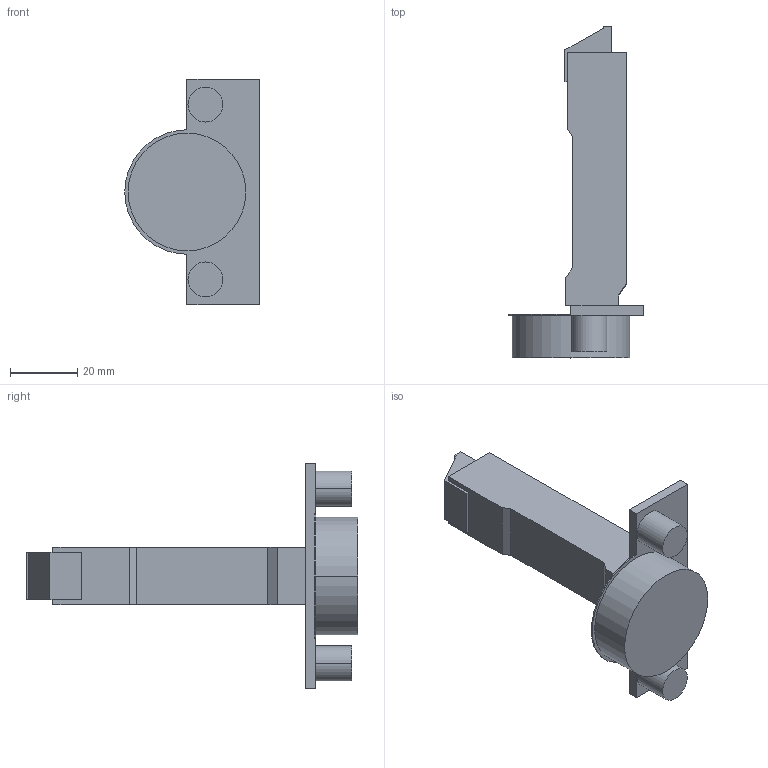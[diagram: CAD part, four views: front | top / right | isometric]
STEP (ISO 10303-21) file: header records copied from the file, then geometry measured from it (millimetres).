
FILE_DESCRIPTION (( 'STEP AP214' ), '1' );
FILE_NAME ('Scharnier TS Click-on 110° H_BB, K03_Dübel.step', '2018-09-12T09:10:23', ( '' ), ( '' ), 'SwSTEP 2.0', 'SolidWorks 2017', '' );
FILE_SCHEMA (( 'AUTOMOTIVE_DESIGN' ));
Length unit declared in the file: millimetre
Products named in the file (1): Scharnier TS Click-on 110° H_BB, K03_Dübel
Bounding box: 40 x 98.7 x 67 mm (x, y, z)
Volume: 40499.9 mm3; surface area: 12220.6 mm2
Topology: 1 solids, 1 shells, 54 faces, 130 edges, 86 vertices
Faces by surface type: plane 37, cylinder 17
Entity records: 1606 total; most frequent: DIRECTION 274, CARTESIAN_POINT 271, ORIENTED_EDGE 260, EDGE_CURVE 130, LINE 96, VECTOR 96, AXIS2_PLACEMENT_3D 89, VERTEX_POINT 86
